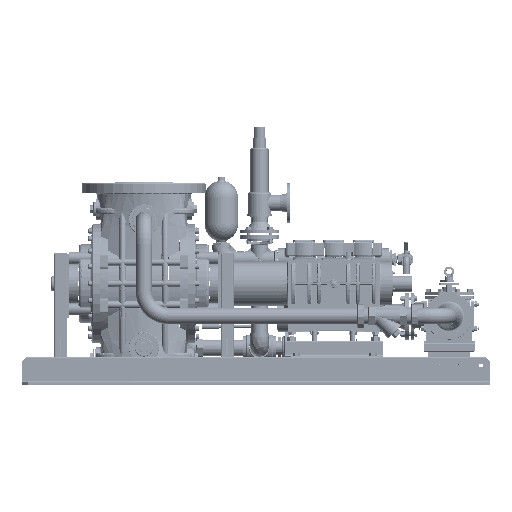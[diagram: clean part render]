
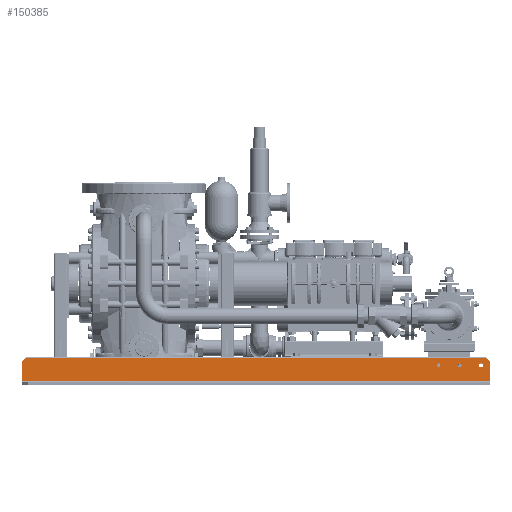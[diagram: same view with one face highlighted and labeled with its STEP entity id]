
A CAD part, top view. The second image highlights one B-rep face of the part: STEP entity #150385.
In plain terms, the highlighted planar face has unit normal (0, 0, 1).
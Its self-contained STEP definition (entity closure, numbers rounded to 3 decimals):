
#7619 = LINE ( 'NONE', #148671, #205414 ) ;
#7655 = VERTEX_POINT ( 'NONE', #400137 ) ;
#9428 = EDGE_CURVE ( 'NONE', #286104, #246503, #295570, .T. ) ;
#13555 = EDGE_CURVE ( 'NONE', #449289, #285117, #205228, .T. ) ;
#13589 = FACE_BOUND ( 'NONE', #442412, .T. ) ;
#14229 = CARTESIAN_POINT ( 'NONE',  ( 1584.75, -385., 365. ) ) ;
#22192 = ORIENTED_EDGE ( 'NONE', *, *, #449336, .T. ) ;
#28668 = VERTEX_POINT ( 'NONE', #250954 ) ;
#46344 = VERTEX_POINT ( 'NONE', #184990 ) ;
#46606 = DIRECTION ( 'NONE',  ( -1., 0., 0. ) ) ;
#46624 = AXIS2_PLACEMENT_3D ( 'NONE', #319668, #81256, #46606 ) ;
#48146 = AXIS2_PLACEMENT_3D ( 'NONE', #14229, #257232, #398358 ) ;
#54147 = VECTOR ( 'NONE', #303179, 1000. ) ;
#61609 = AXIS2_PLACEMENT_3D ( 'NONE', #139901, #281041, #105269 ) ;
#66184 = ORIENTED_EDGE ( 'NONE', *, *, #118497, .T. ) ;
#66547 = CARTESIAN_POINT ( 'NONE',  ( -573., -350., 365. ) ) ;
#68913 = ORIENTED_EDGE ( 'NONE', *, *, #117914, .T. ) ;
#78699 = ORIENTED_EDGE ( 'NONE', *, *, #252671, .F. ) ;
#79964 = DIRECTION ( 'NONE',  ( -1., 0., 0. ) ) ;
#81256 = DIRECTION ( 'NONE',  ( 0., 0., -1. ) ) ;
#83714 = DIRECTION ( 'NONE',  ( -1., 0., 0. ) ) ;
#94307 = AXIS2_PLACEMENT_3D ( 'NONE', #442119, #402861, #83714 ) ;
#96408 = VERTEX_POINT ( 'NONE', #329066 ) ;
#102863 = CARTESIAN_POINT ( 'NONE',  ( 1494., -385., 365. ) ) ;
#105269 = DIRECTION ( 'NONE',  ( -1., 0., 0. ) ) ;
#107696 = EDGE_CURVE ( 'NONE', #46344, #367855, #418007, .T. ) ;
#115976 = CARTESIAN_POINT ( 'NONE',  ( 1575.5, -385., 365. ) ) ;
#117914 = EDGE_CURVE ( 'NONE', #368336, #399114, #335886, .T. ) ;
#118497 = EDGE_CURVE ( 'NONE', #96408, #286104, #268190, .T. ) ;
#120321 = DIRECTION ( 'NONE',  ( 1., 0., 0. ) ) ;
#132291 = EDGE_LOOP ( 'NONE', ( #217390, #328112 ) ) ;
#139070 = CARTESIAN_POINT ( 'NONE',  ( 1394., -385., 365. ) ) ;
#139901 = CARTESIAN_POINT ( 'NONE',  ( 1484.75, -385., 365. ) ) ;
#148671 = CARTESIAN_POINT ( 'NONE',  ( -573., -365., 365. ) ) ;
#150385 = ADVANCED_FACE ( 'NONE', ( #439336, #13589, #256602, #194004 ), #189426, .F. ) ;
#155991 = CARTESIAN_POINT ( 'NONE',  ( 1484.75, -385., 365. ) ) ;
#156870 = VERTEX_POINT ( 'NONE', #370540 ) ;
#166791 = AXIS2_PLACEMENT_3D ( 'NONE', #294244, #328981, #259477 ) ;
#181350 = EDGE_CURVE ( 'NONE', #7655, #28668, #353319, .T. ) ;
#184990 = CARTESIAN_POINT ( 'NONE',  ( 1594., -385., 365. ) ) ;
#188738 = EDGE_LOOP ( 'NONE', ( #395675, #22192, #435924, #207359, #78699, #66184 ) ) ;
#189426 = PLANE ( 'NONE',  #417166 ) ;
#191374 = DIRECTION ( 'NONE',  ( 0., 1., 0. ) ) ;
#191703 = DIRECTION ( 'NONE',  ( 0., 0., -1. ) ) ;
#194004 = FACE_OUTER_BOUND ( 'NONE', #188738, .T. ) ;
#198133 = CARTESIAN_POINT ( 'NONE',  ( 1627., -350., 365. ) ) ;
#198784 = CARTESIAN_POINT ( 'NONE',  ( -573., -457., 365. ) ) ;
#205228 = CIRCLE ( 'NONE', #94307, 9.25 ) ;
#205414 = VECTOR ( 'NONE', #292205, 1000. ) ;
#206017 = ORIENTED_EDGE ( 'NONE', *, *, #379171, .T. ) ;
#207359 = ORIENTED_EDGE ( 'NONE', *, *, #271754, .T. ) ;
#217390 = ORIENTED_EDGE ( 'NONE', *, *, #107696, .T. ) ;
#230891 = EDGE_CURVE ( 'NONE', #367855, #46344, #232530, .T. ) ;
#232530 = CIRCLE ( 'NONE', #48146, 9.25 ) ;
#232629 = DIRECTION ( 'NONE',  ( 0., 1., 0. ) ) ;
#238888 = LINE ( 'NONE', #241180, #397834 ) ;
#241180 = CARTESIAN_POINT ( 'NONE',  ( 1607., -345., 365. ) ) ;
#245134 = CARTESIAN_POINT ( 'NONE',  ( 1475.5, -385., 365. ) ) ;
#245934 = CIRCLE ( 'NONE', #46624, 9.25 ) ;
#246503 = VERTEX_POINT ( 'NONE', #394977 ) ;
#250954 = CARTESIAN_POINT ( 'NONE',  ( 1612., -350., 365. ) ) ;
#252671 = EDGE_CURVE ( 'NONE', #96408, #156870, #336843, .T. ) ;
#256602 = FACE_BOUND ( 'NONE', #132291, .T. ) ;
#257232 = DIRECTION ( 'NONE',  ( 0., 0., -1. ) ) ;
#259477 = DIRECTION ( 'NONE',  ( -1., 0., 0. ) ) ;
#268190 = LINE ( 'NONE', #198784, #365566 ) ;
#271754 = EDGE_CURVE ( 'NONE', #7655, #156870, #7619, .T. ) ;
#281041 = DIRECTION ( 'NONE',  ( 0., 0., -1. ) ) ;
#285117 = VERTEX_POINT ( 'NONE', #139070 ) ;
#286104 = VERTEX_POINT ( 'NONE', #288976 ) ;
#287677 = EDGE_LOOP ( 'NONE', ( #206017, #68913 ) ) ;
#288976 = CARTESIAN_POINT ( 'NONE',  ( 1627., -457., 365. ) ) ;
#292205 = DIRECTION ( 'NONE',  ( -0.707, -0.707, 0. ) ) ;
#294244 = CARTESIAN_POINT ( 'NONE',  ( 1584.75, -385., 365. ) ) ;
#295570 = LINE ( 'NONE', #198133, #387289 ) ;
#303179 = DIRECTION ( 'NONE',  ( 1., 0., 0. ) ) ;
#315205 = DIRECTION ( 'NONE',  ( -0.707, 0.707, 0. ) ) ;
#319668 = CARTESIAN_POINT ( 'NONE',  ( 1384.75, -385., 365. ) ) ;
#328112 = ORIENTED_EDGE ( 'NONE', *, *, #230891, .T. ) ;
#328981 = DIRECTION ( 'NONE',  ( 0., 0., -1. ) ) ;
#329066 = CARTESIAN_POINT ( 'NONE',  ( -573., -457., 365. ) ) ;
#329704 = VECTOR ( 'NONE', #232629, 1000. ) ;
#335341 = ORIENTED_EDGE ( 'NONE', *, *, #13555, .T. ) ;
#335886 = CIRCLE ( 'NONE', #402267, 9.25 ) ;
#336843 = LINE ( 'NONE', #406280, #329704 ) ;
#339271 = ORIENTED_EDGE ( 'NONE', *, *, #402212, .T. ) ;
#353319 = LINE ( 'NONE', #66547, #54147 ) ;
#356898 = CIRCLE ( 'NONE', #61609, 9.25 ) ;
#365566 = VECTOR ( 'NONE', #120321, 1000. ) ;
#367508 = CARTESIAN_POINT ( 'NONE',  ( -573., -350., 365. ) ) ;
#367855 = VERTEX_POINT ( 'NONE', #115976 ) ;
#368336 = VERTEX_POINT ( 'NONE', #245134 ) ;
#370540 = CARTESIAN_POINT ( 'NONE',  ( -573., -365., 365. ) ) ;
#379171 = EDGE_CURVE ( 'NONE', #399114, #368336, #356898, .T. ) ;
#387289 = VECTOR ( 'NONE', #191374, 1000. ) ;
#394977 = CARTESIAN_POINT ( 'NONE',  ( 1627., -365., 365. ) ) ;
#395675 = ORIENTED_EDGE ( 'NONE', *, *, #9428, .T. ) ;
#397834 = VECTOR ( 'NONE', #315205, 1000. ) ;
#398358 = DIRECTION ( 'NONE',  ( -1., 0., 0. ) ) ;
#399114 = VERTEX_POINT ( 'NONE', #102863 ) ;
#399125 = DIRECTION ( 'NONE',  ( 0., 0., -1. ) ) ;
#400137 = CARTESIAN_POINT ( 'NONE',  ( -558., -350., 365. ) ) ;
#402212 = EDGE_CURVE ( 'NONE', #285117, #449289, #245934, .T. ) ;
#402267 = AXIS2_PLACEMENT_3D ( 'NONE', #155991, #399125, #79964 ) ;
#402306 = DIRECTION ( 'NONE',  ( -1., 0., 0. ) ) ;
#402861 = DIRECTION ( 'NONE',  ( 0., 0., -1. ) ) ;
#406280 = CARTESIAN_POINT ( 'NONE',  ( -573., -350., 365. ) ) ;
#417166 = AXIS2_PLACEMENT_3D ( 'NONE', #367508, #191703, #402306 ) ;
#418007 = CIRCLE ( 'NONE', #166791, 9.25 ) ;
#422171 = CARTESIAN_POINT ( 'NONE',  ( 1375.5, -385., 365. ) ) ;
#435924 = ORIENTED_EDGE ( 'NONE', *, *, #181350, .F. ) ;
#439336 = FACE_BOUND ( 'NONE', #287677, .T. ) ;
#442119 = CARTESIAN_POINT ( 'NONE',  ( 1384.75, -385., 365. ) ) ;
#442412 = EDGE_LOOP ( 'NONE', ( #339271, #335341 ) ) ;
#449289 = VERTEX_POINT ( 'NONE', #422171 ) ;
#449336 = EDGE_CURVE ( 'NONE', #246503, #28668, #238888, .T. ) ;
